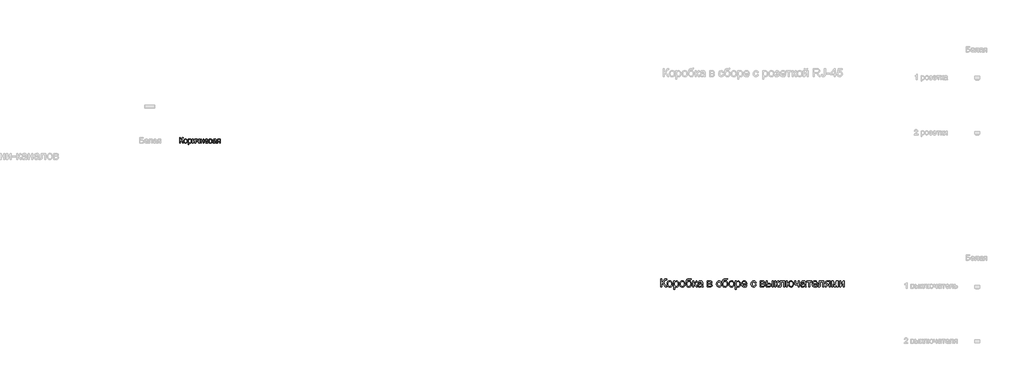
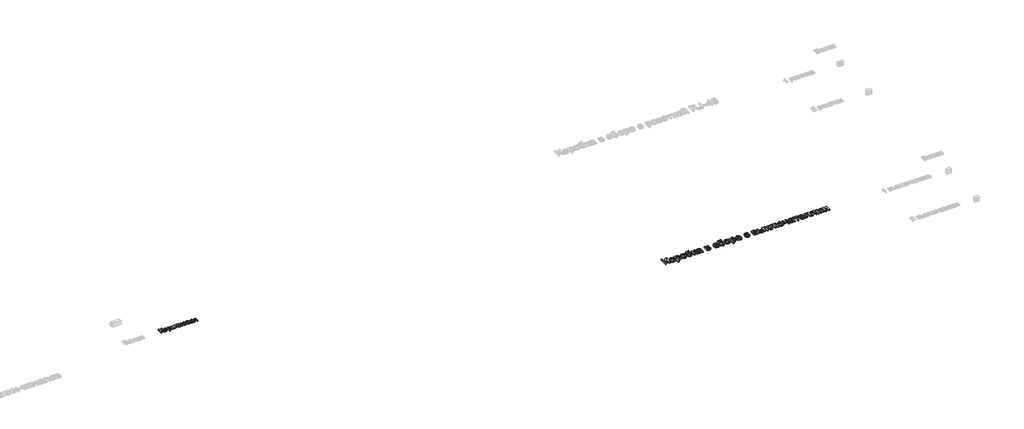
# One storey, part 16 of 48: 2 proxies.
"""IFC4 building model written with IfcOpenShell, lengths in millimetres."""

from ifc_helpers import new_model, si_unit, origin, origin_with_axes, place, context, project, spatial, polyline, outline, extrude, element, save

model = new_model("IFC4")

# Units and contexts
model_context = context("Model", 3, world=origin())
ifc_project = project(units=[si_unit("LENGTHUNIT", "METRE", prefix="MILLI")], contexts=[model_context])

# Site, building, storey
site = spatial("IfcSite", under=ifc_project)
building = spatial("IfcBuilding", under=site)
storey = spatial("IfcBuildingStorey", under=building, Name="Этаж 01", Elevation=0.0)

# Proxies
placement = place(None, origin())
element("IfcBuildingElementProxy", 1, Name="150 мм Arial", ObjectType="150 мм Arial", at=placement, inside=storey, context=model_context, shape_type="SweptSolid", body=[
    extrude(outline(polyline([(53946.4985577, -3575.129736), (53965.3341158, -3575.129736), (53965.3341158, -3641.0541896), (53978.0858255, -3639.8079893), (53986.39536, -3636.0693885), (54001.0922458, -3610.8510778), (54011.4849121, -3589.7898335), (54023.257136, -3579.360379), (54040.0877372, -3575.129736), (54052.4485723, -3575.3504652), (54052.4485723, -3594.1860234), (54048.2915057, -3594.0756588), (54044.1344392, -3593.9652942), (54029.4191594, -3598.4902427), (54018.2355467, -3617.8776239), (54004.8998244, -3641.495648), (53991.8951959, -3649.2947463), (54006.4357317, -3657.8112144), (54020.7739325, -3675.5615207), (54052.4485723, -3725.8142013), (54030.5963818, -3725.8142013), (54003.8145725, -3683.360619), (53984.9606203, -3661.1957288), (53976.2556126, -3656.6845758), (53965.3341158, -3655.1808582), (53965.3341158, -3725.8142013), (53946.4985577, -3725.8142013), (53946.4985577, -3575.129736)])), origin_with_axes(), (0.0, 0.0, 1.0), 20.0),
    extrude(outline(polyline([(54061.8663514, -3670.4847492), (54065.9406445, -3643.8041075), (54078.1635237, -3625.0513228), (54093.2650796, -3615.8634699), (54111.3464797, -3612.8008523), (54131.1339325, -3616.5302561), (54146.9390627, -3627.7184672), (54157.2995394, -3645.4825691), (54160.7530317, -3668.9396448), (54159.2263214, -3687.968341), (54154.6461905, -3702.4536946), (54147.1459964, -3713.3016149), (54136.8590961, -3721.4180114), (54124.6408153, -3726.4809874), (54111.3464797, -3728.168646), (54091.3199036, -3724.4530379), (54075.5331675, -3713.3062134), (54065.2830554, -3695.1696311), (54061.8663514, -3670.4847492)]), holes=[polyline([(54080.7019095, -3670.447961), (54082.8816103, -3687.4946929), (54089.4207128, -3699.6393973), (54099.2615562, -3706.9096652), (54111.3464797, -3709.3330879), (54123.3762209, -3706.8958697), (54133.1986702, -3699.584215), (54139.7377727, -3687.2785623), (54141.9174735, -3669.8593498), (54139.7239771, -3653.3092585), (54133.1434879, -3641.3301011), (54123.3072431, -3634.0598331), (54111.3464797, -3631.6364105), (54099.2615562, -3634.0506361), (54089.4207128, -3641.2933129), (54082.8816103, -3653.4104261), (54080.7019095, -3670.447961)])]), origin_with_axes(), (0.0, 0.0, 1.0), 20.0),
    extrude(outline(polyline([(54181.9430346, -3768.1942071), (54181.9430346, -3615.1552971), (54200.7785927, -3615.1552971), (54200.7785927, -3633.6229733), (54213.8016154, -3618.0063826), (54231.3863747, -3612.8008523), (54244.1242888, -3614.6218682), (54255.2619162, -3620.0849158), (54264.3302074, -3628.8589014), (54270.8601128, -3640.6127312), (54276.1208253, -3669.6386206), (54274.6355018, -3685.7472535), (54270.1795311, -3700.1544321), (54262.8954676, -3712.128991), (54252.9258655, -3720.9397648), (54241.3145901, -3726.3614257), (54229.1055064, -3728.168646), (54212.7163635, -3723.3309978), (54200.7785927, -3711.0989214), (54200.7785927, -3768.1942071), (54181.9430346, -3768.1942071)]), holes=[polyline([(54200.7785927, -3671.367666), (54202.8157393, -3688.2534495), (54208.9271789, -3700.0624616), (54217.9448863, -3707.0154313), (54228.7008362, -3709.3330879), (54239.6315299, -3706.9326579), (54248.8791636, -3699.7313678), (54255.1837413, -3687.4900944), (54257.2852672, -3669.9697144), (54255.2343251, -3653.1759013), (54249.0814987, -3641.2013424), (54240.0775869, -3634.0276435), (54229.4733884, -3631.6364105), (54218.8278031, -3634.1793948), (54209.4790019, -3641.8083477), (54202.953695, -3654.2841458), (54200.7785927, -3671.367666)])]), origin_with_axes(), (0.0, 0.0, 1.0), 20.0),
    extrude(outline(polyline([(54292.6019387, -3670.4847492), (54296.6762318, -3643.8041075), (54308.8991111, -3625.0513228), (54324.000667, -3615.8634699), (54342.0820671, -3612.8008523), (54361.8695199, -3616.5302561), (54377.6746501, -3627.7184672), (54388.0351268, -3645.4825691), (54391.488619, -3668.9396448), (54389.9619088, -3687.968341), (54385.3817779, -3702.4536946), (54377.8815837, -3713.3016149), (54367.5946834, -3721.4180114), (54355.3764027, -3726.4809874), (54342.0820671, -3728.168646), (54322.055491, -3724.4530379), (54306.2687548, -3713.3062134), (54296.0186428, -3695.1696311), (54292.6019387, -3670.4847492)]), holes=[polyline([(54311.4374969, -3670.447961), (54313.6171977, -3687.4946929), (54320.1563002, -3699.6393973), (54329.9971435, -3706.9096652), (54342.0820671, -3709.3330879), (54354.1118083, -3706.8958697), (54363.9342576, -3699.584215), (54370.4733601, -3687.2785623), (54372.6530609, -3669.8593498), (54370.4595645, -3653.3092585), (54363.8790753, -3641.3301011), (54354.0428304, -3634.0598331), (54342.0820671, -3631.6364105), (54329.9971435, -3634.0506361), (54320.1563002, -3641.2933129), (54313.6171977, -3653.4104261), (54311.4374969, -3670.447961)])]), origin_with_axes(), (0.0, 0.0, 1.0), 20.0),
    extrude(outline(polyline([(54490.3752993, -3572.7752913), (54506.8564127, -3572.7752913), (54502.0003704, -3587.472177), (54492.3986503, -3592.7880718), (54469.3324492, -3593.9652942), (54438.2648147, -3598.3063017), (54431.1371011, -3603.9532904), (54426.3454381, -3612.2122411), (54422.3171302, -3636.8235466), (54438.6326967, -3618.7973289), (54448.551715, -3614.2999715), (54459.6571527, -3612.8008523), (54479.256066, -3616.6130295), (54495.1577653, -3628.049561), (54505.6975844, -3645.9884068), (54509.2108575, -3669.3075268), (54507.4680165, -3687.2877593), (54502.2394937, -3701.7179306), (54485.703198, -3721.2708586), (54474.4092207, -3726.4441992), (54459.6571527, -3728.168646), (54442.656406, -3725.9475585), (54429.9138934, -3719.2842958), (54420.5375011, -3709.1583439), (54413.6351151, -3696.5491885), (54409.3860781, -3677.5618791), (54407.9697324, -3648.3014649), (54411.5427863, -3612.1616574), (54422.2619479, -3590.1209273), (54440.3939318, -3578.8775339), (54466.2054523, -3575.129736), (54487.174726, -3574.7066717), (54490.3752993, -3572.7752913)]), holes=[polyline([(54490.3752993, -3668.7189156), (54488.3335543, -3653.8978697), (54482.208319, -3642.0290769), (54472.3674757, -3634.2345771), (54459.1789061, -3631.6364105), (54445.4293166, -3634.3817299), (54435.2297883, -3642.617688), (54428.911415, -3655.4429741), (54426.8052906, -3671.9562772), (54429.1321442, -3687.9637425), (54436.112705, -3699.7129737), (54446.5053714, -3706.9280593), (54459.0685415, -3709.3330879), (54471.696091, -3706.5509803), (54481.6932842, -3698.2046575), (54488.2047956, -3685.2690069), (54490.3752993, -3668.7189156)])]), origin_with_axes(), (0.0, 0.0, 1.0), 20.0),
    extrude(outline(polyline([(54532.7553052, -3615.1552971), (54551.5908633, -3615.1552971), (54551.5908633, -3662.2441925), (54564.2092158, -3658.8596781), (54574.5466998, -3639.1412032), (54583.1367444, -3622.1266609), (54590.7151135, -3616.5900369), (54604.4922942, -3615.1552971), (54608.0975378, -3615.1552971), (54608.0975378, -3634.1012199), (54603.0207663, -3633.9908553), (54593.8237164, -3635.977418), (54587.3489933, -3648.3750413), (54579.7522301, -3661.78434), (54569.1020463, -3668.3510336), (54580.9846347, -3675.6810824), (54592.646494, -3691.1229291), (54612.8064273, -3725.8142013), (54591.3956952, -3725.8142013), (54571.6404321, -3691.8586931), (54561.7076182, -3677.4929012), (54551.5908633, -3674.0164163), (54551.5908633, -3725.8142013), (54532.7553052, -3725.8142013), (54532.7553052, -3615.1552971)])), origin_with_axes(), (0.0, 0.0, 1.0), 20.0),
    extrude(outline(polyline([(54695.2119942, -3711.6875326), (54676.9466532, -3724.4530379), (54656.7683258, -3728.168646), (54641.0275749, -3725.9337629), (54629.4162994, -3719.2291135), (54622.2563961, -3709.0479793), (54619.8697616, -3696.3836416), (54623.4750052, -3681.4844208), (54632.9479666, -3670.6686902), (54646.1365361, -3664.4882727), (54662.4337085, -3661.6555813), (54695.1016297, -3655.1808582), (54695.2119942, -3650.9870034), (54693.9152102, -3642.5808998), (54690.0248581, -3637.081064), (54681.3244489, -3632.9975739), (54669.2027372, -3631.6364105), (54650.1464498, -3635.2600481), (54641.0597646, -3648.1175239), (54622.2242064, -3645.7630791), (54630.3727926, -3627.3689793), (54646.7803296, -3616.5900369), (54671.6307584, -3612.8008523), (54694.4578362, -3616.1485785), (54707.3521001, -3624.5546821), (54713.1278474, -3637.3385814), (54714.0475524, -3653.8196948), (54714.0475524, -3677.2537779), (54715.0040456, -3709.9768814), (54718.7564419, -3725.8142013), (54699.9208838, -3725.8142013), (54695.2119942, -3711.6875326)]), holes=[polyline([(54695.2119942, -3674.0164163), (54664.8249414, -3679.7921637), (54648.6197396, -3682.8455842), (54641.2804938, -3687.8119912), (54638.7053198, -3695.0592665), (54644.3155202, -3705.2495977), (54660.7782395, -3709.3330879), (54679.8345269, -3704.8265334), (54692.1217855, -3693.9188323), (54695.1016297, -3679.3507053), (54695.2119942, -3674.0164163)])]), origin_with_axes(), (0.0, 0.0, 1.0), 20.0),
    extrude(outline(polyline([(54798.8075641, -3615.1552971), (54840.3046531, -3615.1552971), (54863.0581545, -3617.6752888), (54875.860448, -3626.9091269), (54881.213131, -3643.0039641), (54877.9757695, -3656.0821691), (54868.2268966, -3665.4079776), (54880.8820372, -3675.616703), (54885.9220205, -3693.3670093), (54882.7306442, -3707.7236041), (54875.1430781, -3717.831162), (54863.1317309, -3723.8184414), (54846.6690117, -3725.8142013), (54798.8075641, -3725.8142013), (54798.8075641, -3615.1552971)]), holes=[polyline([(54817.6431222, -3657.535303), (54836.2579512, -3657.535303), (54851.6170245, -3656.5788098), (54859.085029, -3652.752837), (54862.3775729, -3645.8366555), (54860.933636, -3640.217258), (54856.6018255, -3636.6028174), (54836.8465624, -3633.9908553), (54817.6431222, -3633.9908553), (54817.6431222, -3657.535303)]), polyline([(54817.6431222, -3706.9786431), (54840.7461115, -3706.9786431), (54861.2371387, -3703.5757346), (54865.4769787, -3698.935823), (54867.0864624, -3691.8219049), (54863.8674949, -3682.7536137), (54855.4797854, -3677.4745071), (54838.9067016, -3676.3708611), (54817.6431222, -3676.3708611), (54817.6431222, -3706.9786431)])]), origin_with_axes(), (0.0, 0.0, 1.0), 20.0),
    extrude(outline(polyline([(55038.9609305, -3685.7886402), (55057.7964887, -3688.143085), (55052.5449732, -3704.8955113), (55042.6765387, -3717.5552505), (55029.1200872, -3725.5152971), (55012.8045207, -3728.168646), (54992.7687475, -3724.4668334), (54977.1015731, -3713.3613957), (54966.9894167, -3695.3397765), (54963.6186979, -3670.8894194), (54965.0580362, -3654.127796), (54969.3760512, -3639.6010557), (54976.6417206, -3627.8702186), (54986.9240223, -3619.4963047), (54999.2250765, -3614.4747154), (55012.5470033, -3612.8008523), (55028.4624981, -3615.1001148), (55041.1866166, -3621.9979022), (55050.3146886, -3633.1263326), (55055.4420439, -3648.1175239), (55036.6064858, -3650.4719686), (55027.8692884, -3636.3636941), (55012.6941561, -3631.6364105), (55000.5218606, -3633.9632641), (54990.8603597, -3640.943825), (54984.555782, -3652.9551721), (54982.4542561, -3670.3743846), (54984.5097967, -3688.0281218), (54990.6764187, -3700.0808557), (55000.1631756, -3707.0200298), (55012.1791213, -3709.3330879), (55021.9325927, -3707.889151), (55029.9294276, -3703.5573405), (55035.7465616, -3696.2272918), (55038.9609305, -3685.7886402)])), origin_with_axes(), (0.0, 0.0, 1.0), 20.0),
    extrude(outline(polyline([(55151.9742795, -3572.7752913), (55168.4553928, -3572.7752913), (55163.5993505, -3587.472177), (55153.9976304, -3592.7880718), (55130.9314293, -3593.9652942), (55099.8637948, -3598.3063017), (55092.7360812, -3603.9532904), (55087.9444182, -3612.2122411), (55083.9161104, -3636.8235466), (55100.2316768, -3618.7973289), (55110.1506951, -3614.2999715), (55121.2561329, -3612.8008523), (55140.8550462, -3616.6130295), (55156.7567454, -3628.049561), (55167.2965646, -3645.9884068), (55170.8098376, -3669.3075268), (55169.0669967, -3687.2877593), (55163.8384738, -3701.7179306), (55147.3021781, -3721.2708586), (55136.0082009, -3726.4441992), (55121.2561329, -3728.168646), (55104.2553862, -3725.9475585), (55091.5128736, -3719.2842958), (55082.1364812, -3709.1583439), (55075.2340953, -3696.5491885), (55070.9850582, -3677.5618791), (55069.5687125, -3648.3014649), (55073.1417664, -3612.1616574), (55083.8609281, -3590.1209273), (55101.9929119, -3578.8775339), (55127.8044324, -3575.129736), (55148.7737061, -3574.7066717), (55151.9742795, -3572.7752913)]), holes=[polyline([(55151.9742795, -3668.7189156), (55149.9325344, -3653.8978697), (55143.8072992, -3642.0290769), (55133.9664558, -3634.2345771), (55120.7778863, -3631.6364105), (55107.0282967, -3634.3817299), (55096.8287684, -3642.617688), (55090.5103951, -3655.4429741), (55088.4042707, -3671.9562772), (55090.7311243, -3687.9637425), (55097.7116852, -3699.7129737), (55108.1043515, -3706.9280593), (55120.6675217, -3709.3330879), (55133.2950712, -3706.5509803), (55143.2922644, -3698.2046575), (55149.8037757, -3685.2690069), (55151.9742795, -3668.7189156)])]), origin_with_axes(), (0.0, 0.0, 1.0), 20.0),
    extrude(outline(polyline([(55189.6453958, -3670.4847492), (55193.7196889, -3643.8041075), (55205.9425682, -3625.0513228), (55221.0441241, -3615.8634699), (55239.1255241, -3612.8008523), (55258.9129769, -3616.5302561), (55274.7181072, -3627.7184672), (55285.0785838, -3645.4825691), (55288.5320761, -3668.9396448), (55287.0053658, -3687.968341), (55282.425235, -3702.4536946), (55274.9250408, -3713.3016149), (55264.6381405, -3721.4180114), (55252.4198597, -3726.4809874), (55239.1255241, -3728.168646), (55219.098948, -3724.4530379), (55203.3122119, -3713.3062134), (55193.0620998, -3695.1696311), (55189.6453958, -3670.4847492)]), holes=[polyline([(55208.4809539, -3670.447961), (55210.6606547, -3687.4946929), (55217.1997572, -3699.6393973), (55227.0406006, -3706.9096652), (55239.1255241, -3709.3330879), (55251.1552654, -3706.8958697), (55260.9777146, -3699.584215), (55267.5168171, -3687.2785623), (55269.6965179, -3669.8593498), (55267.5030215, -3653.3092585), (55260.9225323, -3641.3301011), (55251.0862875, -3634.0598331), (55239.1255241, -3631.6364105), (55227.0406006, -3634.0506361), (55217.1997572, -3641.2933129), (55210.6606547, -3653.4104261), (55208.4809539, -3670.447961)])]), origin_with_axes(), (0.0, 0.0, 1.0), 20.0),
    extrude(outline(polyline([(55309.722079, -3768.1942071), (55309.722079, -3615.1552971), (55328.5576371, -3615.1552971), (55328.5576371, -3633.6229733), (55341.5806598, -3618.0063826), (55359.1654191, -3612.8008523), (55371.9033332, -3614.6218682), (55383.0409606, -3620.0849158), (55392.1092518, -3628.8589014), (55398.6391572, -3640.6127312), (55403.8998698, -3669.6386206), (55402.4145462, -3685.7472535), (55397.9585755, -3700.1544321), (55390.674512, -3712.128991), (55380.70491, -3720.9397648), (55369.0936345, -3726.3614257), (55356.8845508, -3728.168646), (55340.4954079, -3723.3309978), (55328.5576371, -3711.0989214), (55328.5576371, -3768.1942071), (55309.722079, -3768.1942071)]), holes=[polyline([(55328.5576371, -3671.367666), (55330.5947837, -3688.2534495), (55336.7062233, -3700.0624616), (55345.7239307, -3707.0154313), (55356.4798806, -3709.3330879), (55367.4105744, -3706.9326579), (55376.658208, -3699.7313678), (55382.9627857, -3687.4900944), (55385.0643116, -3669.9697144), (55383.0133695, -3653.1759013), (55376.8605431, -3641.2013424), (55367.8566313, -3634.0276435), (55357.2524328, -3631.6364105), (55346.6068475, -3634.1793948), (55337.2580463, -3641.8083477), (55330.7327394, -3654.2841458), (55328.5576371, -3671.367666)])]), origin_with_axes(), (0.0, 0.0, 1.0), 20.0),
    extrude(outline(polyline([(55502.5658209, -3692.8519745), (55521.033497, -3695.2064193), (55514.3794314, -3709.1215557), (55503.7614373, -3719.5234191), (55489.4186381, -3726.0073393), (55471.5901569, -3728.168646), (55449.489646, -3724.4392423), (55432.4843008, -3713.2510311), (55421.640979, -3695.3305794), (55418.0265384, -3671.4044542), (55421.6777672, -3646.673587), (55432.6314536, -3628.1783197), (55449.4068726, -3616.6452192), (55470.5232991, -3612.8008523), (55490.9821365, -3616.6360221), (55507.3298927, -3628.1415315), (55518.0490543, -3646.6000106), (55521.6221082, -3671.2940896), (55521.5117436, -3676.3708611), (55436.8620965, -3676.3708611), (55440.1224507, -3690.4699386), (55447.6962213, -3700.8350138), (55458.6269151, -3707.2085694), (55471.9580389, -3709.3330879), (55490.425715, -3705.3967505), (55502.5658209, -3692.8519745)]), holes=[polyline([(55436.8620965, -3657.535303), (55502.7865501, -3657.535303), (55500.2389672, -3647.584095), (55495.2449692, -3640.4655784), (55484.2636916, -3633.8437025), (55470.4497227, -3631.6364105), (55457.7531953, -3633.3976455), (55447.2547629, -3638.6813507), (55439.9569038, -3646.9173089), (55436.8620965, -3657.535303)])]), origin_with_axes(), (0.0, 0.0, 1.0), 20.0),
    extrude(outline(polyline([(55669.9521287, -3685.7886402), (55688.7876868, -3688.143085), (55683.5361713, -3704.8955113), (55673.6677368, -3717.5552505), (55660.1112853, -3725.5152971), (55643.7957188, -3728.168646), (55623.7599457, -3724.4668334), (55608.0927712, -3713.3613957), (55597.9806148, -3695.3397765), (55594.6098961, -3670.8894194), (55596.0492344, -3654.127796), (55600.3672493, -3639.6010557), (55607.6329187, -3627.8702186), (55617.9152205, -3619.4963047), (55630.2162747, -3614.4747154), (55643.5382014, -3612.8008523), (55659.4536962, -3615.1001148), (55672.1778147, -3621.9979022), (55681.3058867, -3633.1263326), (55686.4332421, -3648.1175239), (55667.5976839, -3650.4719686), (55658.8604865, -3636.3636941), (55643.6853542, -3631.6364105), (55631.5130587, -3633.9632641), (55621.8515578, -3640.943825), (55615.5469801, -3652.9551721), (55613.4454542, -3670.3743846), (55615.5009949, -3688.0281218), (55621.6676168, -3700.0808557), (55631.1543738, -3707.0200298), (55643.1703194, -3709.3330879), (55652.9237908, -3707.889151), (55660.9206257, -3703.5573405), (55666.7377597, -3696.2272918), (55669.9521287, -3685.7886402)])), origin_with_axes(), (0.0, 0.0, 1.0), 20.0),
    extrude(outline(polyline([(55764.1299194, -3615.1552971), (55805.6270085, -3615.1552971), (55828.3805099, -3617.6752888), (55841.1828033, -3626.9091269), (55846.5354864, -3643.0039641), (55843.2981248, -3656.0821691), (55833.5492519, -3665.4079776), (55846.2043926, -3675.616703), (55851.2443759, -3693.3670093), (55848.0529996, -3707.7236041), (55840.4654334, -3717.831162), (55828.4540863, -3723.8184414), (55811.991367, -3725.8142013), (55764.1299194, -3725.8142013), (55764.1299194, -3615.1552971)]), holes=[polyline([(55782.9654776, -3657.535303), (55801.5803065, -3657.535303), (55816.9393798, -3656.5788098), (55824.4073843, -3652.752837), (55827.6999282, -3645.8366555), (55826.2559914, -3640.217258), (55821.9241809, -3636.6028174), (55802.1689177, -3633.9908553), (55782.9654776, -3633.9908553), (55782.9654776, -3657.535303)]), polyline([(55782.9654776, -3706.9786431), (55806.0684669, -3706.9786431), (55826.559494, -3703.5757346), (55830.799334, -3698.935823), (55832.4088177, -3691.8219049), (55829.1898503, -3682.7536137), (55820.8021408, -3677.4745071), (55804.2290569, -3676.3708611), (55782.9654776, -3676.3708611), (55782.9654776, -3706.9786431)])]), origin_with_axes(), (0.0, 0.0, 1.0), 20.0),
    extrude(outline(polyline([(55978.3843934, -3615.1552971), (55997.2199516, -3615.1552971), (55997.2199516, -3725.8142013), (55978.3843934, -3725.8142013), (55978.3843934, -3615.1552971)])), origin_with_axes(), (0.0, 0.0, 1.0), 20.0),
    extrude(outline(polyline([(55874.7888236, -3615.1552971), (55893.6243817, -3615.1552971), (55893.6243817, -3655.1808582), (55916.911312, -3655.1808582), (55937.0390557, -3657.5399015), (55951.9520721, -3664.6170314), (55961.1813116, -3675.8420307), (55964.2577248, -3690.6446825), (55961.6779523, -3704.1229591), (55953.9386348, -3715.4951113), (55940.5339346, -3723.2344288), (55920.958014, -3725.8142013), (55874.7888236, -3725.8142013), (55874.7888236, -3615.1552971)]), holes=[polyline([(55893.6243817, -3706.9786431), (55912.9749747, -3706.9786431), (55937.9541622, -3703.0239117), (55943.5551655, -3697.9609357), (55945.4221667, -3690.6814707), (55939.8855426, -3679.0931879), (55931.005791, -3675.2856092), (55915.4397841, -3674.0164163), (55893.6243817, -3674.0164163), (55893.6243817, -3706.9786431)])]), origin_with_axes(), (0.0, 0.0, 1.0), 20.0),
    extrude(outline(polyline([(56126.7144139, -3615.1552971), (56211.4744256, -3615.1552971), (56211.4744256, -3725.7038367), (56192.6388674, -3725.7038367), (56192.6388674, -3633.9908553), (56145.549972, -3633.9908553), (56145.549972, -3686.7819216), (56144.2807792, -3711.1357096), (56137.3094153, -3721.4180114), (56120.828302, -3725.8142013), (56105.524411, -3724.8577081), (56105.524411, -3706.9786431), (56113.9489086, -3706.9786431), (56122.4653768, -3705.8198148), (56125.8682853, -3702.1409949), (56126.7144139, -3685.7150638), (56126.7144139, -3615.1552971)])), origin_with_axes(), (0.0, 0.0, 1.0), 20.0),
    extrude(outline(polyline([(56025.4732888, -3615.1552971), (56044.308847, -3615.1552971), (56044.308847, -3662.2441925), (56056.9271994, -3658.8596781), (56067.2646835, -3639.1412032), (56075.854728, -3622.1266609), (56083.4330971, -3616.5900369), (56097.2102779, -3615.1552971), (56100.8155214, -3615.1552971), (56100.8155214, -3634.1012199), (56095.7387499, -3633.9908553), (56086.5417, -3635.977418), (56080.0669769, -3648.3750413), (56072.4702137, -3661.78434), (56061.8200299, -3668.3510336), (56073.7026184, -3675.6810824), (56085.3644776, -3691.1229291), (56105.524411, -3725.8142013), (56084.1136788, -3725.8142013), (56064.3584157, -3691.8586931), (56054.4256018, -3677.4929012), (56044.308847, -3674.0164163), (56044.308847, -3725.8142013), (56025.4732888, -3725.8142013), (56025.4732888, -3615.1552971)])), origin_with_axes(), (0.0, 0.0, 1.0), 20.0),
    extrude(outline(polyline([(56239.7277628, -3615.1552971), (56258.563321, -3615.1552971), (56258.563321, -3657.535303), (56279.7533239, -3657.535303), (56284.6415559, -3638.3318628), (56294.3766332, -3624.2787706), (56308.3423534, -3615.6703319), (56325.9225143, -3612.8008523), (56340.6975749, -3614.488511), (56351.9869536, -3619.5514869), (56367.732303, -3638.1479218), (56372.3814117, -3652.0538612), (56373.9311146, -3670.080079), (56370.7259428, -3695.2064193), (56361.1104271, -3713.416578), (56346.0042727, -3724.480629), (56326.3271845, -3728.168646), (56307.9376832, -3724.7105553), (56293.604081, -3714.336283), (56283.9885653, -3697.928746), (56279.7533239, -3676.3708611), (56258.563321, -3676.3708611), (56258.563321, -3725.8142013), (56239.7277628, -3725.8142013), (56239.7277628, -3615.1552971)]), holes=[polyline([(56327.1365249, -3631.6364105), (56315.1297762, -3634.0736287), (56306.1120688, -3641.3852834), (56300.4696787, -3653.0931279), (56298.588882, -3668.7189156), (56300.4834743, -3686.9244758), (56306.1672511, -3699.5290327), (56315.0240102, -3706.8820741), (56326.4375491, -3709.3330879), (56337.8832776, -3707.0660151), (56347.0573349, -3700.2647967), (56353.0860011, -3688.4143979), (56355.0955565, -3670.999784), (56353.3573141, -3653.7783081), (56348.1425868, -3641.4772539), (56339.4145864, -3634.0966213), (56327.1365249, -3631.6364105)])]), origin_with_axes(), (0.0, 0.0, 1.0), 20.0),
    extrude(outline(polyline([(56390.412228, -3615.1552971), (56409.2477862, -3615.1552971), (56409.2477862, -3636.3820882), (56410.7744965, -3656.2845042), (56418.1137423, -3667.0634466), (56432.6818693, -3671.6619716), (56458.6911263, -3665.9598006), (56458.6911263, -3615.1552971), (56477.5266845, -3615.1552971), (56477.5266845, -3725.8142013), (56458.6911263, -3725.8142013), (56458.6911263, -3684.0228066), (56427.6418859, -3690.4975297), (56416.2513397, -3688.8098711), (56406.2863361, -3683.7468951), (56398.5194275, -3676.2375039), (56393.723166, -3667.2105994), (56390.412228, -3645.6895027), (56390.412228, -3615.1552971)])), origin_with_axes(), (0.0, 0.0, 1.0), 20.0),
    extrude(outline(polyline([(56576.4133648, -3711.6875326), (56558.1480237, -3724.4530379), (56537.9696963, -3728.168646), (56522.2289454, -3725.9337629), (56510.6176699, -3719.2291135), (56503.4577666, -3709.0479793), (56501.0711322, -3696.3836416), (56504.6763757, -3681.4844208), (56514.1493371, -3670.6686902), (56527.3379066, -3664.4882727), (56543.635079, -3661.6555813), (56576.3030002, -3655.1808582), (56576.4133648, -3650.9870034), (56575.1165808, -3642.5808998), (56571.2262287, -3637.081064), (56562.5258195, -3632.9975739), (56550.4041077, -3631.6364105), (56531.3478204, -3635.2600481), (56522.2611351, -3648.1175239), (56503.4255769, -3645.7630791), (56511.5741631, -3627.3689793), (56527.9817001, -3616.5900369), (56552.8321289, -3612.8008523), (56575.6592067, -3616.1485785), (56588.5534706, -3624.5546821), (56594.329218, -3637.3385814), (56595.2489229, -3653.8196948), (56595.2489229, -3677.2537779), (56596.2054161, -3709.9768814), (56599.9578125, -3725.8142013), (56581.1222543, -3725.8142013), (56576.4133648, -3711.6875326)]), holes=[polyline([(56576.4133648, -3674.0164163), (56546.026312, -3679.7921637), (56529.8211101, -3682.8455842), (56522.4818643, -3687.8119912), (56519.9066903, -3695.0592665), (56525.5168908, -3705.2495977), (56541.97961, -3709.3330879), (56561.0358974, -3704.8265334), (56573.323156, -3693.9188323), (56576.3030002, -3679.3507053), (56576.4133648, -3674.0164163)])]), origin_with_axes(), (0.0, 0.0, 1.0), 20.0),
    extrude(outline(polyline([(56611.7300363, -3615.1552971), (56701.1989375, -3615.1552971), (56701.1989375, -3633.9908553), (56665.882266, -3633.9908553), (56665.882266, -3725.8142013), (56647.0467079, -3725.8142013), (56647.0467079, -3633.9908553), (56611.7300363, -3633.9908553), (56611.7300363, -3615.1552971)])), origin_with_axes(), (0.0, 0.0, 1.0), 20.0),
    extrude(outline(polyline([(56795.1559991, -3692.8519745), (56813.6236753, -3695.2064193), (56806.9696097, -3709.1215557), (56796.3516156, -3719.5234191), (56782.0088163, -3726.0073393), (56764.1803351, -3728.168646), (56742.0798243, -3724.4392423), (56725.074479, -3713.2510311), (56714.2311572, -3695.3305794), (56710.6167166, -3671.4044542), (56714.2679454, -3646.673587), (56725.2216318, -3628.1783197), (56741.9970508, -3616.6452192), (56763.1134773, -3612.8008523), (56783.5723148, -3616.6360221), (56799.920071, -3628.1415315), (56810.6392326, -3646.6000106), (56814.2122865, -3671.2940896), (56814.1019219, -3676.3708611), (56729.4522748, -3676.3708611), (56732.712629, -3690.4699386), (56740.2863995, -3700.8350138), (56751.2170933, -3707.2085694), (56764.5482171, -3709.3330879), (56783.0158933, -3705.3967505), (56795.1559991, -3692.8519745)]), holes=[polyline([(56729.4522748, -3657.535303), (56795.3767283, -3657.535303), (56792.8291455, -3647.584095), (56787.8351474, -3640.4655784), (56776.8538699, -3633.8437025), (56763.0399009, -3631.6364105), (56750.3433736, -3633.3976455), (56739.8449411, -3638.6813507), (56732.5470821, -3646.9173089), (56729.4522748, -3657.535303)])]), origin_with_axes(), (0.0, 0.0, 1.0), 20.0),
    extrude(outline(polyline([(56842.4656237, -3615.1552971), (56927.2256354, -3615.1552971), (56927.2256354, -3725.7038367), (56908.3900772, -3725.7038367), (56908.3900772, -3633.9908553), (56861.3011819, -3633.9908553), (56861.3011819, -3686.7819216), (56860.031989, -3711.1357096), (56853.0606252, -3721.4180114), (56836.5795118, -3725.8142013), (56821.2756208, -3724.8577081), (56821.2756208, -3706.9786431), (56829.7001185, -3706.9786431), (56838.2165867, -3705.8198148), (56841.6194951, -3702.1409949), (56842.4656237, -3685.7150638), (56842.4656237, -3615.1552971)])), origin_with_axes(), (0.0, 0.0, 1.0), 20.0),
    extrude(outline(polyline([(57040.2389843, -3615.1552971), (57040.2389843, -3725.8142013), (57021.4034262, -3725.8142013), (57021.4034262, -3683.4341954), (57011.1395185, -3683.4341954), (56997.1600027, -3685.8254284), (56984.0266154, -3701.9018716), (56969.01703, -3725.8142013), (56947.2384159, -3725.8142013), (56966.1475505, -3695.5743013), (56974.4984718, -3684.7217824), (56982.1872055, -3679.9025283), (56969.3113356, -3675.9569939), (56960.2614386, -3668.4613982), (56954.9087555, -3658.4917961), (56953.1245278, -3647.1242425), (56955.5617461, -3634.2299786), (56962.8734007, -3624.0212532), (56974.8019744, -3617.3717861), (56991.0899497, -3615.1552971), (57040.2389843, -3615.1552971)]), holes=[polyline([(57021.4034262, -3633.9908553), (56996.5713915, -3633.9908553), (56983.7461054, -3635.0807057), (56976.4666404, -3638.3502569), (56971.960086, -3648.5589823), (56973.6201535, -3655.7372797), (56978.600356, -3660.7174822), (57002.1264096, -3664.5986373), (57021.4034262, -3664.5986373), (57021.4034262, -3633.9908553)])]), origin_with_axes(), (0.0, 0.0, 1.0), 20.0),
    extrude(outline(polyline([(57068.4923215, -3615.1552971), (57100.9027253, -3615.1552971), (57125.8819128, -3703.7412815), (57152.8108748, -3615.1552971), (57183.8601152, -3615.1552971), (57183.8601152, -3725.8142013), (57165.0245571, -3725.8142013), (57165.0245571, -3636.713182), (57137.9484422, -3725.8142013), (57113.2267721, -3725.8142013), (57087.3278797, -3632.4457509), (57087.3278797, -3725.8142013), (57068.4923215, -3725.8142013), (57068.4923215, -3615.1552971)])), origin_with_axes(), (0.0, 0.0, 1.0), 20.0),
    extrude(outline(polyline([(57212.1134525, -3615.1552971), (57230.9490106, -3615.1552971), (57230.9490106, -3699.5474268), (57277.2285656, -3615.1552971), (57301.5823537, -3615.1552971), (57301.5823537, -3725.8142013), (57282.7467955, -3725.8142013), (57282.7467955, -3641.9371064), (57236.7615461, -3725.8142013), (57212.1134525, -3725.8142013), (57212.1134525, -3615.1552971)])), origin_with_axes(), (0.0, 0.0, 1.0), 20.0),
])
element("IfcBuildingElementProxy", 2, Name="100 мм Arial", ObjectType="100 мм Arial", at=placement, inside=storey, context=model_context, shape_type="SweptSolid", body=[
    extrude(outline(polyline([(45159.8490718, -993.3009155), (45172.4061105, -993.3009155), (45172.4061105, -1037.2505512), (45186.44694, -1033.9273505), (45196.2448638, -1017.1151433), (45203.1733081, -1003.0743138), (45211.0214573, -996.1213441), (45222.2418582, -993.3009155), (45230.4824149, -993.4480683), (45230.4824149, -1006.0051071), (45227.7110372, -1005.9315307), (45224.9396595, -1005.8579543), (45215.1294729, -1008.8745866), (45207.6737312, -1021.7995074), (45198.7832496, -1037.5448568), (45190.1134973, -1042.7442556), (45199.8071878, -1048.4219011), (45209.3659883, -1060.2554386), (45230.4824149, -1093.7572256), (45215.9142878, -1093.7572256), (45198.0597483, -1065.4548375), (45185.4904468, -1050.678244), (45172.4061105, -1046.6683303), (45172.4061105, -1093.7572256), (45159.8490718, -1093.7572256), (45159.8490718, -993.3009155)])), origin_with_axes(), (0.0, 0.0, 1.0), 20.0),
    extrude(outline(polyline([(45236.7609342, -1056.8709243), (45239.4771296, -1039.0838298), (45247.6257158, -1026.5819733), (45257.6934198, -1020.4567381), (45269.7476865, -1018.414993), (45282.9393217, -1020.9012622), (45293.4760752, -1028.3600696), (45300.3830596, -1040.2028042), (45302.6853878, -1055.8408547), (45298.6141604, -1078.1835545), (45286.7560974, -1090.8264324), (45269.7476865, -1095.3268555), (45256.3966357, -1092.8497834), (45245.872145, -1085.4185671), (45239.0387369, -1073.3275122), (45236.7609342, -1056.8709243)]), holes=[polyline([(45249.317973, -1056.8463988), (45250.7711069, -1068.2108868), (45255.1305085, -1076.3073563), (45261.6910708, -1081.1542016), (45269.7476865, -1082.7698167), (45277.767514, -1081.1450046), (45284.3158135, -1076.2705681), (45288.6752151, -1068.0667996), (45290.128349, -1056.4539913), (45288.6660181, -1045.4205972), (45284.2790253, -1037.4344922), (45277.7215287, -1032.5876469), (45269.7476865, -1030.9720318), (45261.6910708, -1032.5815155), (45255.1305085, -1037.4099667), (45250.7711069, -1045.4880422), (45249.317973, -1056.8463988)])]), origin_with_axes(), (0.0, 0.0, 1.0), 20.0),
    extrude(outline(polyline([(45316.8120564, -1122.0105629), (45316.8120564, -1019.9846229), (45329.3690952, -1019.9846229), (45329.3690952, -1032.296407), (45338.0511102, -1021.8853465), (45349.7742832, -1018.414993), (45365.6913108, -1023.2710354), (45376.0901085, -1036.9562456), (45379.5972502, -1056.3068385), (45375.6363874, -1076.6507129), (45364.1339437, -1090.5076013), (45348.2537042, -1095.3268555), (45337.327609, -1092.1017567), (45329.3690952, -1083.9470391), (45329.3690952, -1122.0105629), (45316.8120564, -1122.0105629)]), holes=[polyline([(45329.3690952, -1057.4595354), (45330.7271929, -1068.7167245), (45334.801486, -1076.5893992), (45340.8132909, -1081.2247123), (45347.9839241, -1082.7698167), (45355.2710533, -1081.16953), (45361.4361424, -1076.36867), (45365.6391942, -1068.2078211), (45367.0402115, -1056.5275677), (45365.6729167, -1045.3316923), (45361.5710325, -1037.348653), (45355.5684246, -1032.5661871), (45348.4989589, -1030.9720318), (45341.4019021, -1032.6673547), (45335.1693679, -1037.7533232), (45330.8191634, -1046.070522), (45329.3690952, -1057.4595354)])]), origin_with_axes(), (0.0, 0.0, 1.0), 20.0),
    extrude(outline(polyline([(45393.7239188, -1019.9846229), (45406.2809576, -1019.9846229), (45406.2809576, -1076.2460427), (45437.1339943, -1019.9846229), (45453.369853, -1019.9846229), (45453.369853, -1093.7572256), (45440.8128142, -1093.7572256), (45440.8128142, -1037.8391624), (45410.1559813, -1093.7572256), (45393.7239188, -1093.7572256), (45393.7239188, -1019.9846229)])), origin_with_axes(), (0.0, 0.0, 1.0), 20.0),
    extrude(outline(polyline([(45467.4965216, -1019.9846229), (45480.0535604, -1019.9846229), (45480.0535604, -1034.135817), (45481.0713672, -1047.4040942), (45485.9641978, -1054.5900559), (45495.6762824, -1057.6557392), (45513.0157872, -1053.8542919), (45513.0157872, -1019.9846229), (45525.5728259, -1019.9846229), (45525.5728259, -1093.7572256), (45513.0157872, -1093.7572256), (45513.0157872, -1065.8962959), (45492.3162936, -1070.2127779), (45478.0792603, -1065.7123549), (45469.7038136, -1054.6881577), (45467.4965216, -1040.3407599), (45467.4965216, -1019.9846229)])), origin_with_axes(), (0.0, 0.0, 1.0), 20.0),
    extrude(outline(polyline([(45544.4083841, -1019.9846229), (45556.9654228, -1019.9846229), (45556.9654228, -1048.2379601), (45589.9276496, -1048.2379601), (45589.9276496, -1019.9846229), (45602.4846884, -1019.9846229), (45602.4846884, -1093.7572256), (45589.9276496, -1093.7572256), (45589.9276496, -1060.7949989), (45556.9654228, -1060.7949989), (45556.9654228, -1093.7572256), (45544.4083841, -1093.7572256), (45544.4083841, -1019.9846229)])), origin_with_axes(), (0.0, 0.0, 1.0), 20.0),
    extrude(outline(polyline([(45672.9708787, -1071.7824078), (45685.2826628, -1073.3520376), (45680.846619, -1082.6287953), (45673.7679563, -1089.5633709), (45664.2060901, -1093.8859843), (45652.320436, -1095.3268555), (45637.5867621, -1092.8405863), (45626.2498653, -1085.3817789), (45619.0209841, -1073.4348111), (45616.611357, -1057.4840609), (45619.0455095, -1040.9968162), (45626.3479671, -1028.666638), (45637.5315798, -1020.9779043), (45651.6091975, -1018.414993), (45665.2484224, -1020.9717729), (45676.1469265, -1028.6421125), (45683.2930343, -1040.9477652), (45685.6750702, -1057.4104845), (45685.6014938, -1060.7949989), (45629.1683958, -1060.7949989), (45631.3419652, -1070.1943838), (45636.3911456, -1077.104434), (45643.6782748, -1081.353471), (45652.5656907, -1082.7698167), (45664.8774748, -1080.1455918), (45672.9708787, -1071.7824078)]), holes=[polyline([(45629.1683958, -1048.2379601), (45673.1180315, -1048.2379601), (45668.0903109, -1036.8581437), (45660.7694591, -1032.4435598), (45651.5601465, -1030.9720318), (45636.09684, -1035.6686586), (45631.2316006, -1041.1592974), (45629.1683958, -1048.2379601)])]), origin_with_axes(), (0.0, 0.0, 1.0), 20.0),
    extrude(outline(polyline([(45698.232109, -1019.9846229), (45725.896835, -1019.9846229), (45741.065836, -1021.6646173), (45749.6006982, -1027.8205094), (45753.1691536, -1038.5504009), (45751.0109126, -1047.2692042), (45744.511664, -1053.4864099), (45752.9484244, -1060.2922268), (45756.3084133, -1072.1257643), (45754.1808291, -1081.6968276), (45749.1224517, -1088.4351994), (45741.1148869, -1092.4267191), (45730.1397407, -1093.7572256), (45698.232109, -1093.7572256), (45698.232109, -1019.9846229)]), holes=[polyline([(45710.7891478, -1048.2379601), (45723.1990337, -1048.2379601), (45733.4384159, -1047.600298), (45738.4170856, -1045.0496495), (45740.6121148, -1040.4388618), (45736.7616166, -1034.2829697), (45723.5914412, -1032.5416616), (45710.7891478, -1032.5416616), (45710.7891478, -1048.2379601)]), polyline([(45710.7891478, -1081.2001869), (45726.1911406, -1081.2001869), (45739.8518254, -1078.9315812), (45743.7513745, -1071.0956947), (45741.6053962, -1065.0501673), (45736.0135899, -1061.5307629), (45724.9648673, -1060.7949989), (45710.7891478, -1060.7949989), (45710.7891478, -1081.2001869)])]), origin_with_axes(), (0.0, 0.0, 1.0), 20.0),
    extrude(outline(polyline([(45819.0936071, -1084.3394466), (45806.9167131, -1092.8497834), (45793.4644948, -1095.3268555), (45782.9706609, -1093.8369334), (45775.2298106, -1089.3671672), (45770.4565417, -1082.5797443), (45768.8654521, -1074.1368526), (45771.2689478, -1064.2040387), (45777.5842553, -1056.9935516), (45786.376635, -1052.8732732), (45797.2414166, -1050.9848123), (45819.0200307, -1046.6683303), (45819.0936071, -1043.8724271), (45815.6355164, -1034.6018008), (45801.7541024, -1030.9720318), (45789.0499109, -1033.3877902), (45782.9921207, -1041.9594407), (45770.4350819, -1040.3898109), (45775.8674727, -1028.1270777), (45786.8058307, -1020.9411161), (45803.3727832, -1018.414993), (45818.5908351, -1020.6468105), (45827.187011, -1026.2508795), (45831.0375092, -1034.7734791), (45831.6506459, -1045.760888), (45831.6506459, -1061.3836101), (45832.288308, -1083.1990124), (45834.7899056, -1093.7572256), (45822.2328668, -1093.7572256), (45819.0936071, -1084.3394466)]), holes=[polyline([(45819.0936071, -1059.225369), (45798.8355719, -1063.0758672), (45788.032104, -1065.1114809), (45783.1392735, -1068.4224189), (45781.4224908, -1073.2539358), (45785.1626244, -1080.0474899), (45796.1377706, -1082.7698167), (45808.8419622, -1079.7654471), (45817.033468, -1072.4936463), (45819.0200307, -1062.7815616), (45819.0936071, -1059.225369)])]), origin_with_axes(), (0.0, 0.0, 1.0), 20.0),
    extrude(outline(polyline([(45905.4232487, -1019.9846229), (45905.4232487, -1093.7572256), (45892.8662099, -1093.7572256), (45892.8662099, -1065.5038884), (45886.0236048, -1065.5038884), (45876.7039276, -1067.0980437), (45867.9483361, -1077.8156725), (45857.9419458, -1093.7572256), (45843.4228698, -1093.7572256), (45856.0289595, -1073.5972923), (45866.7220628, -1063.1494436), (45858.1381496, -1060.5190874), (45852.1048848, -1055.5220236), (45847.3469444, -1041.2972531), (45848.9717565, -1032.7010772), (45853.8461929, -1025.8952603), (45861.7985754, -1021.4622822), (45872.6572256, -1019.9846229), (45905.4232487, -1019.9846229)]), holes=[polyline([(45892.8662099, -1032.5416616), (45876.3115201, -1032.5416616), (45862.9083528, -1035.4479294), (45859.9039831, -1042.2537463), (45864.3308298, -1050.3594129), (45880.0148655, -1052.9468496), (45892.8662099, -1052.9468496), (45892.8662099, -1032.5416616)])]), origin_with_axes(), (0.0, 0.0, 1.0), 20.0),
])

save(model, "model.ifc")
